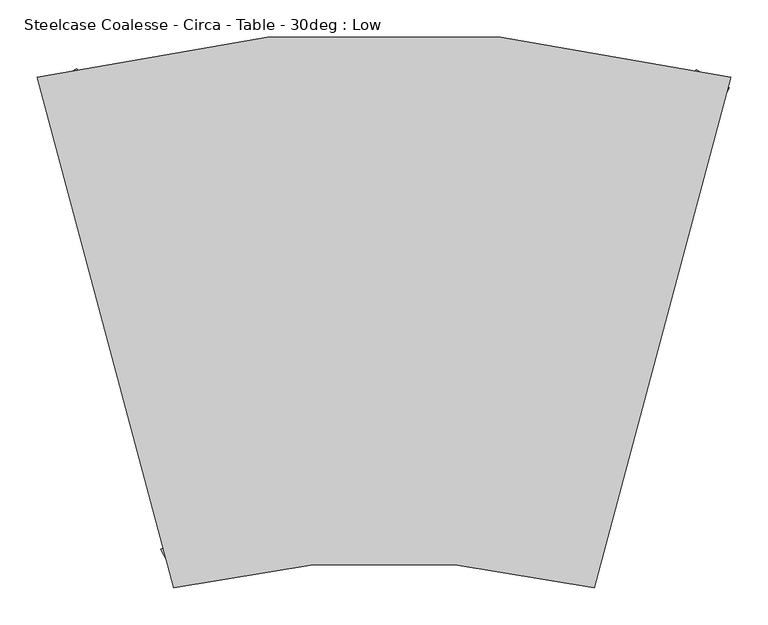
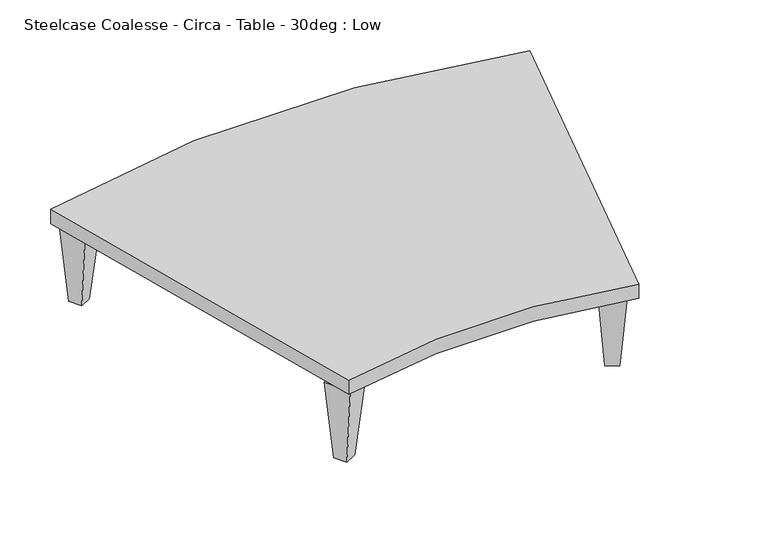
"""IFC4 building model written with IfcOpenShell, lengths in millimetres: furniture geometry, Steelcase Coalesse - Circa - Table - 30deg : Low."""

from ifc_helpers import new_model, si_unit, point, frame, frame_2d, origin, place, context, project, spatial, polyline, circle_curve, trimmed, segment, composite_curve, outline, extrude, faceted_brep, source, transform, mapped, element, save


def steelcase_coalesse_circa_table_30deg_low_8c004b64(model_context):
    return source(origin(), model_context, "Body", "SolidModel", [
        faceted_brep([(-160.8847996, 222.2278019, 0.0), (-186.2811112, 222.6606517, 0.0), (-185.8423568, 248.403399, 0.0), (-160.4460452, 247.9705492, 0.0), (-148.7685925, 207.3430261, 159.258), (-147.9009389, 258.2502956, 159.258), (-198.693562, 259.1159952, 159.258), (-199.5612157, 208.2087257, 159.258)], [[[0, 1, 2, 3]], [[4, 5, 6, 7]], [[4, 7, 1, 0]], [[7, 6, 2, 1]], [[6, 5, 3, 2]], [[5, 4, 0, 3]]]),
        faceted_brep([(-603.9595221, 189.5799787, 0.0), (-626.2775122, 177.4528471, 0.0), (-638.5700722, 200.0752809, 0.0), (-616.2520822, 212.2024125, 0.0), (-586.0850859, 182.5897316, 159.258), (-610.3940945, 227.3264616, 159.258), (-655.0300746, 203.0721984, 159.258), (-630.721066, 158.3354684, 159.258)], [[[0, 1, 2, 3]], [[4, 5, 6, 7]], [[4, 7, 1, 0]], [[7, 6, 2, 1]], [[6, 5, 3, 2]], [[5, 4, 0, 3]]]),
        faceted_brep([(-446.3868288, -432.9045498, 0.0), (-468.704816, -445.0316867, 0.0), (-480.9973814, -422.4092558, 0.0), (-458.6793943, -410.2821189, 0.0), (-428.5123909, -439.8947926, 159.258), (-452.8214103, -395.1580684, 159.258), (-497.4573845, -419.4123423, 159.258), (-473.1483652, -464.1490665, 159.258)], [[[0, 1, 2, 3]], [[4, 5, 6, 7]], [[4, 7, 1, 0]], [[7, 6, 2, 1]], [[6, 5, 3, 2]], [[5, 4, 0, 3]]]),
        faceted_brep([(216.48048, 188.5948915, 0.0), (228.77304, 211.2173254, 0.0), (251.09103, 199.0901937, 0.0), (238.79847, 176.4677599, 0.0), (198.6060438, 181.6046445, 159.258), (243.2420238, 157.3503812, 159.258), (267.5510324, 202.0871112, 159.258), (222.9150524, 226.3413744, 159.258)], [[[0, 1, 2, 3]], [[4, 5, 6, 7]], [[4, 7, 1, 0]], [[7, 6, 2, 1]], [[6, 5, 3, 2]], [[5, 4, 0, 3]]]),
        faceted_brep([(50.5111866, -417.1245347, 0.0), (62.8037521, -394.5021038, 0.0), (85.1217392, -406.6292408, 0.0), (72.8291738, -429.2516716, 0.0), (32.6367487, -424.1147775, 159.258), (77.272723, -448.3690514, 159.258), (101.5817423, -403.6323272, 159.258), (56.9457681, -379.3780533, 159.258)], [[[0, 1, 2, 3]], [[4, 5, 6, 7]], [[4, 7, 1, 0]], [[7, 6, 2, 1]], [[6, 5, 3, 2]], [[5, 4, 0, 3]]]),
        extrude(outline(composite_curve([segment(trimmed(circle_curve(frame_2d((-197.1636369, -1610.211898)), 1174.0260013), [point((85.5185257, -470.7261164))], [point((-479.8457995, -470.7261164))], True, "CARTESIAN"), True, "CONTINUOUS"), segment(polyline([(-479.8457995, -470.7261164), (-663.917922, 216.2403236)]), True, "CONTINUOUS"), segment(trimmed(circle_curve(frame_2d((-197.1636496, -1551.8243335)), 1828.6367005), [point((-663.917922, 216.2403236))], [point((269.5906228, 216.2403236))], False, "CARTESIAN"), True, "CONTINUOUS"), segment(polyline([(269.5906228, 216.2403236), (85.5185257, -470.7261164)]), True, "CONTINUOUS")], self_intersect=False)), frame((0.0, 0.0, 159.258), z_axis=(0.0, 0.0, 1.0), x_axis=(1.0, 0.0, 0.0)), (0.0, 0.0, 1.0), 29.464),
    ])


if __name__ == "__main__":
    model = new_model("IFC4")
    model_context = context("Model", 3, world=origin())
    ifc_project = project(units=[si_unit("LENGTHUNIT", "METRE", prefix="MILLI")], contexts=[model_context])
    site = spatial("IfcSite", under=ifc_project)
    building = spatial("IfcBuilding", under=site)
    placement = place(None, origin())
    steelcase_coalesse_circa_table_30deg_low_shape = steelcase_coalesse_circa_table_30deg_low_8c004b64(model_context)
    element("IfcFurniture", 1, ObjectType="Steelcase Coalesse - Circa - Table - 30deg : Low", at=placement, inside=building, context=model_context, shape_type="MappedRepresentation", body=[
        mapped(steelcase_coalesse_circa_table_30deg_low_shape, transform((0.0, 0.0, 0.0), x_axis=(1.0, 0.0, 0.0), y_axis=(0.0, 1.0, 0.0), z_axis=(0.0, 0.0, 1.0))),
    ])
    save(model, "model.ifc")
